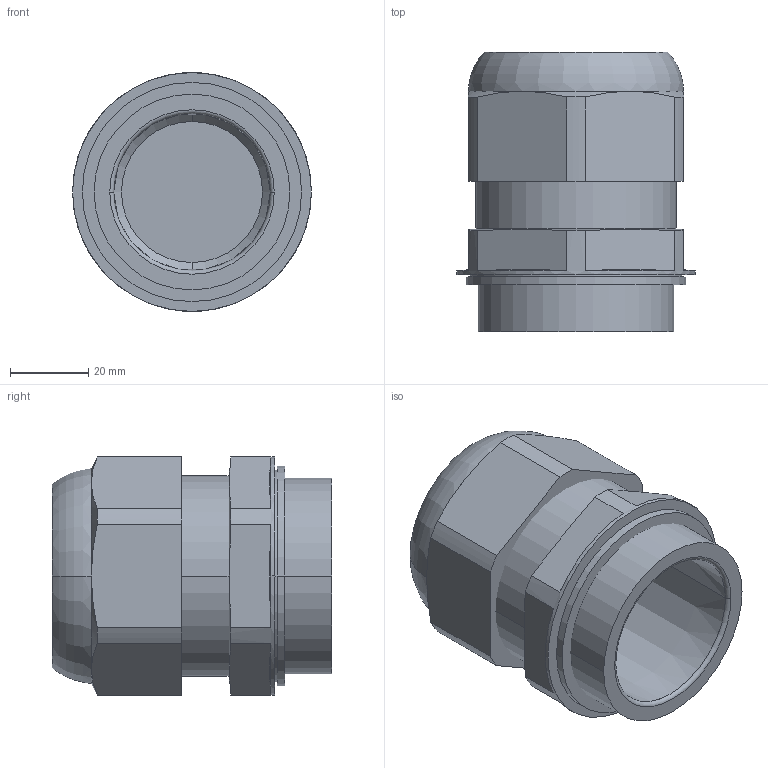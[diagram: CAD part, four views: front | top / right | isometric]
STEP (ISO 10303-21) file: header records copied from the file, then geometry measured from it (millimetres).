
FILE_DESCRIPTION (( 'STEP AP203' ), '1' );
FILE_NAME ('8161_5-M50-32-ap203.STEP', '2013-07-11T09:10:35', ( 'Admin' ), ( 'R. STAHL AG' ), 'SwSTEP 2.0', 'SolidWorks 2013', '' );
FILE_SCHEMA (( 'CONFIG_CONTROL_DESIGN' ));
Length unit declared in the file: millimetre
Products named in the file (6): 81_610_81_01_0_Stutzen_Vereinfacht; 81_610_81_01_0_Dichtung; 81_610_81_01_0_Hutmutter_Vereinfacht; Anschlussgewindedichtung_M50; Staubschutzkappe_M50; 8161_5-M50-32-ap203
Assembly tree (5 placements, depth 2):
  8161_5-M50-32-ap203
    81_610_81_01_0_Stutzen_Vereinfacht
    81_610_81_01_0_Dichtung
    81_610_81_01_0_Hutmutter_Vereinfacht
    Anschlussgewindedichtung_M50
    Staubschutzkappe_M50
Bounding box: 61 x 71.44 x 61 mm (x, y, z)
Volume: 79550.5 mm3; surface area: 39531.2 mm2
Topology: 5 solids, 5 shells, 89 faces, 200 edges, 121 vertices
Faces by surface type: cylinder 30, cone 25, plane 22, torus 12
Entity records: 3209 total; most frequent: CARTESIAN_POINT 549, DIRECTION 473, ORIENTED_EDGE 400, AXIS2_PLACEMENT_3D 203, EDGE_CURVE 200, VERTEX_POINT 121, CIRCLE 106, EDGE_LOOP 97
